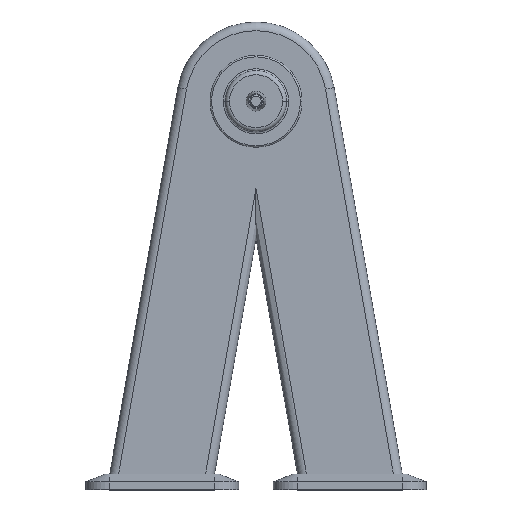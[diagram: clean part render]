
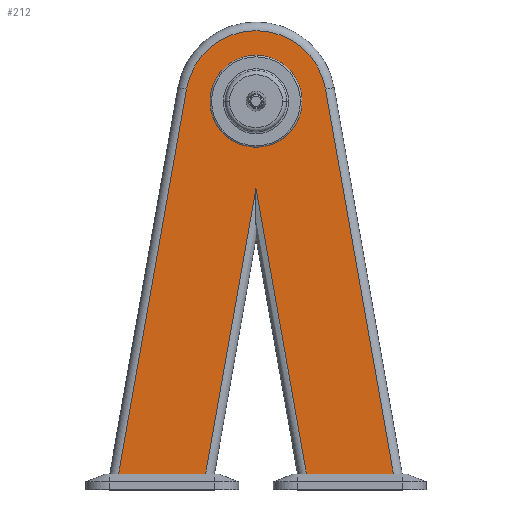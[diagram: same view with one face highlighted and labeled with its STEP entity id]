
A CAD part, top view. The second image highlights one B-rep face of the part: STEP entity #212.
In plain terms, the highlighted planar face has unit normal (0, 0, 1).
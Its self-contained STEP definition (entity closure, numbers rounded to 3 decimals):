
#91 = EDGE_CURVE ( 'NONE', #754, #3215, #3138, .T. ) ;
#195 = AXIS2_PLACEMENT_3D ( 'NONE', #688, #3032, #1030 ) ;
#212 = ADVANCED_FACE ( 'NONE', ( #4304, #3301 ), #3403, .T. ) ;
#268 = ORIENTED_EDGE ( 'NONE', *, *, #3844, .T. ) ;
#290 = VECTOR ( 'NONE', #4027, 1000. ) ;
#296 = LINE ( 'NONE', #3824, #989 ) ;
#314 = DIRECTION ( 'NONE',  ( 0., 0., 1. ) ) ;
#331 = CARTESIAN_POINT ( 'NONE',  ( 69.693, -14.664, 63. ) ) ;
#333 = ORIENTED_EDGE ( 'NONE', *, *, #91, .T. ) ;
#373 = VERTEX_POINT ( 'NONE', #3793 ) ;
#381 = DIRECTION ( 'NONE',  ( 0., 0., 1. ) ) ;
#408 = AXIS2_PLACEMENT_3D ( 'NONE', #2318, #314, #2661 ) ;
#412 = EDGE_CURVE ( 'NONE', #754, #1568, #2870, .T. ) ;
#563 = CARTESIAN_POINT ( 'NONE',  ( -87.648, 505.455, 63. ) ) ;
#645 = CARTESIAN_POINT ( 'NONE',  ( 87.648, 505.455, 63. ) ) ;
#676 = CARTESIAN_POINT ( 'NONE',  ( 58., 490., 63. ) ) ;
#688 = CARTESIAN_POINT ( 'NONE',  ( 0., 490., 63. ) ) ;
#709 = VERTEX_POINT ( 'NONE', #1983 ) ;
#719 = CARTESIAN_POINT ( 'NONE',  ( 0., 490., 63. ) ) ;
#722 = EDGE_CURVE ( 'NONE', #709, #1568, #1502, .T. ) ;
#754 = VERTEX_POINT ( 'NONE', #1354 ) ;
#792 = ORIENTED_EDGE ( 'NONE', *, *, #1862, .F. ) ;
#989 = VECTOR ( 'NONE', #1784, 1000. ) ;
#1030 = DIRECTION ( 'NONE',  ( 1., 0., 0. ) ) ;
#1131 = VECTOR ( 'NONE', #3508, 1000. ) ;
#1190 = EDGE_LOOP ( 'NONE', ( #792, #2537 ) ) ;
#1204 = DIRECTION ( 'NONE',  ( 0., 0., 1. ) ) ;
#1244 = EDGE_CURVE ( 'NONE', #373, #709, #2968, .T. ) ;
#1284 = DIRECTION ( 'NONE',  ( -0.174, 0.985, 0. ) ) ;
#1354 = CARTESIAN_POINT ( 'NONE',  ( 173.247, 20., 63. ) ) ;
#1388 = CARTESIAN_POINT ( 'NONE',  ( 87.648, 505.455, 63. ) ) ;
#1479 = CARTESIAN_POINT ( 'NONE',  ( 0., 20., 63. ) ) ;
#1502 = LINE ( 'NONE', #331, #4090 ) ;
#1555 = EDGE_CURVE ( 'NONE', #373, #3009, #2918, .T. ) ;
#1568 = VERTEX_POINT ( 'NONE', #3185 ) ;
#1612 = CARTESIAN_POINT ( 'NONE',  ( -173.247, 20., 63. ) ) ;
#1635 = AXIS2_PLACEMENT_3D ( 'NONE', #3216, #1204, #3548 ) ;
#1784 = DIRECTION ( 'NONE',  ( -0.174, -0.985, 0. ) ) ;
#1862 = EDGE_CURVE ( 'NONE', #3092, #3622, #4239, .T. ) ;
#1925 = AXIS2_PLACEMENT_3D ( 'NONE', #719, #381, #3731 ) ;
#1983 = CARTESIAN_POINT ( 'NONE',  ( 0., 380.583, 63. ) ) ;
#2318 = CARTESIAN_POINT ( 'NONE',  ( 0., 490., 63. ) ) ;
#2328 = CARTESIAN_POINT ( 'NONE',  ( -58., 490., 63. ) ) ;
#2537 = ORIENTED_EDGE ( 'NONE', *, *, #3410, .F. ) ;
#2661 = DIRECTION ( 'NONE',  ( 1., 0., 0. ) ) ;
#2812 = CARTESIAN_POINT ( 'NONE',  ( 0., 20., 63. ) ) ;
#2839 = ORIENTED_EDGE ( 'NONE', *, *, #412, .F. ) ;
#2870 = LINE ( 'NONE', #1479, #3557 ) ;
#2907 = VERTEX_POINT ( 'NONE', #563 ) ;
#2918 = LINE ( 'NONE', #2812, #1131 ) ;
#2968 = LINE ( 'NONE', #4360, #290 ) ;
#2978 = CIRCLE ( 'NONE', #1635, 58. ) ;
#3009 = VERTEX_POINT ( 'NONE', #1612 ) ;
#3032 = DIRECTION ( 'NONE',  ( 0., 0., 1. ) ) ;
#3092 = VERTEX_POINT ( 'NONE', #2328 ) ;
#3138 = LINE ( 'NONE', #645, #3356 ) ;
#3185 = CARTESIAN_POINT ( 'NONE',  ( 63.581, 20., 63. ) ) ;
#3215 = VERTEX_POINT ( 'NONE', #1388 ) ;
#3216 = CARTESIAN_POINT ( 'NONE',  ( 0., 490., 63. ) ) ;
#3301 = FACE_OUTER_BOUND ( 'NONE', #3590, .T. ) ;
#3328 = DIRECTION ( 'NONE',  ( 0.174, -0.985, 0. ) ) ;
#3356 = VECTOR ( 'NONE', #1284, 1000. ) ;
#3403 = PLANE ( 'NONE',  #1925 ) ;
#3410 = EDGE_CURVE ( 'NONE', #3622, #3092, #2978, .T. ) ;
#3508 = DIRECTION ( 'NONE',  ( -1., 0., 0. ) ) ;
#3548 = DIRECTION ( 'NONE',  ( 1., 0., 0. ) ) ;
#3557 = VECTOR ( 'NONE', #4179, 1000. ) ;
#3590 = EDGE_LOOP ( 'NONE', ( #3841, #3684, #3920, #2839, #333, #3875, #268 ) ) ;
#3622 = VERTEX_POINT ( 'NONE', #676 ) ;
#3684 = ORIENTED_EDGE ( 'NONE', *, *, #1244, .T. ) ;
#3731 = DIRECTION ( 'NONE',  ( 1., 0., 0. ) ) ;
#3793 = CARTESIAN_POINT ( 'NONE',  ( -63.581, 20., 63. ) ) ;
#3824 = CARTESIAN_POINT ( 'NONE',  ( -178.168, -7.91, 63. ) ) ;
#3841 = ORIENTED_EDGE ( 'NONE', *, *, #1555, .F. ) ;
#3844 = EDGE_CURVE ( 'NONE', #2907, #3009, #296, .T. ) ;
#3875 = ORIENTED_EDGE ( 'NONE', *, *, #4165, .T. ) ;
#3920 = ORIENTED_EDGE ( 'NONE', *, *, #722, .T. ) ;
#4027 = DIRECTION ( 'NONE',  ( 0.174, 0.985, 0. ) ) ;
#4090 = VECTOR ( 'NONE', #3328, 1000. ) ;
#4147 = CIRCLE ( 'NONE', #408, 89. ) ;
#4165 = EDGE_CURVE ( 'NONE', #3215, #2907, #4147, .T. ) ;
#4179 = DIRECTION ( 'NONE',  ( -1., 0., 0. ) ) ;
#4239 = CIRCLE ( 'NONE', #195, 58. ) ;
#4304 = FACE_BOUND ( 'NONE', #1190, .T. ) ;
#4360 = CARTESIAN_POINT ( 'NONE',  ( -10.833, 319.147, 63. ) ) ;
